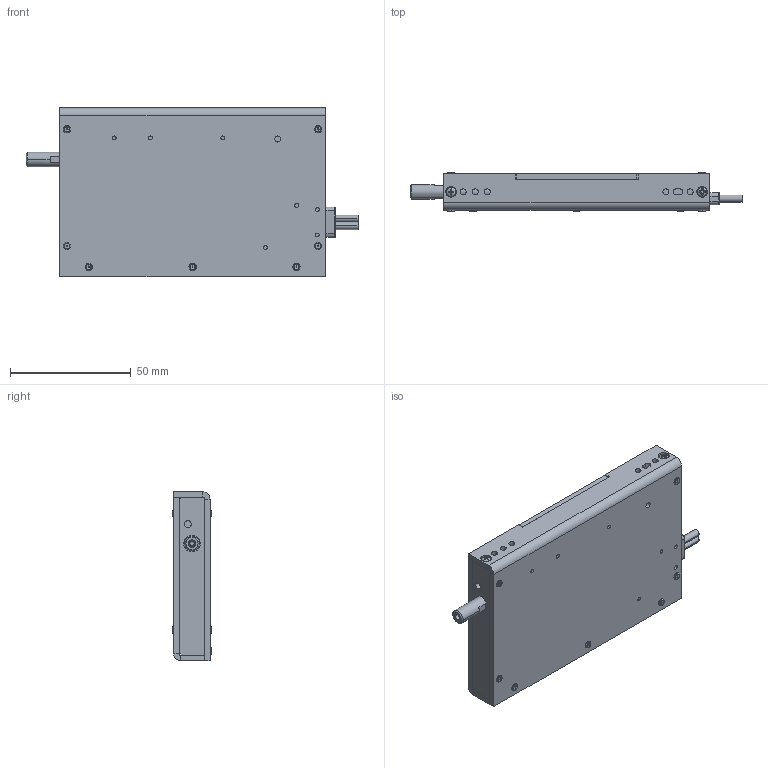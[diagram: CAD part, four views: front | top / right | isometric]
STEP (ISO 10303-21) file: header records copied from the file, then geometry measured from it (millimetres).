
FILE_DESCRIPTION (( 'STEP AP203' ), '1' );
FILE_NAME ('LDL15-010-55-3F(3d)_D.STEP', '2021-12-09T19:26:34', ( '' ), ( '' ), 'SwSTEP 2.0', 'SolidWorks 2020', '' );
FILE_SCHEMA (( 'CONFIG_CONTROL_DESIGN' ));
Length unit declared in the file: millimetre
Products named in the file (1): LDL15-010-55-3F(3d)_D
Bounding box: 137.5 x 16.2 x 70.11 mm (x, y, z)
Volume: 50054.8 mm3; surface area: 45327.7 mm2
Topology: 21 solids, 21 shells, 742 faces, 1626 edges, 953 vertices
Faces by surface type: plane 481, cylinder 155, cone 64, bspline 22, torus 16, sphere 4
Entity records: 20642 total; most frequent: CARTESIAN_POINT 4055, DIRECTION 3534, ORIENTED_EDGE 3248, EDGE_CURVE 1624, AXIS2_PLACEMENT_3D 1230, LINE 1074, VECTOR 1074, VERTEX_POINT 953
